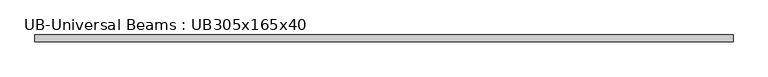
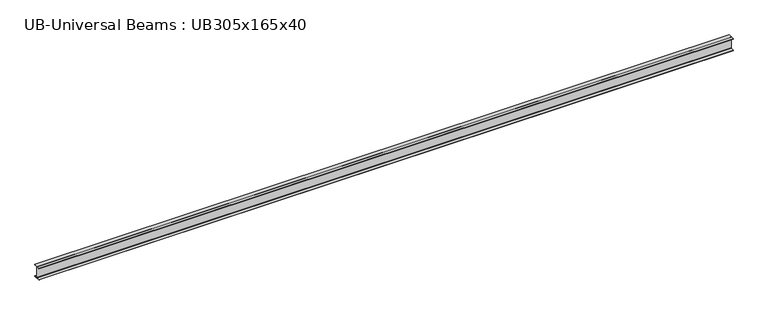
"""IFC4 building model written with IfcOpenShell, lengths in millimetres: beam geometry, UB-Universal Beams : UB305x165x40."""

from ifc_helpers import new_model, si_unit, point, frame, frame_2d, origin, place, context, project, spatial, polyline, circle_curve, trimmed, segment, composite_curve, outline, extrude, source, transform, mapped, element, save


def ub_universal_beams_ub305x165x40_00892be4(model_context):
    return source(origin(), model_context, "Body", "SweptSolid", [
        extrude(outline(composite_curve([segment(polyline([(82.5, -141.5), (82.5, -151.7), (-82.5, -151.7), (-82.5, -141.5), (-11.9, -141.5)]), True, "CONTINUOUS"), segment(trimmed(circle_curve(frame_2d((-11.9, -132.6)), 8.9), [point((-11.9, -141.5))], [point((-3.0, -132.6))], True, "CARTESIAN"), True, "CONTINUOUS"), segment(polyline([(-3.0, -132.6), (-3.0, 132.6)]), True, "CONTINUOUS"), segment(trimmed(circle_curve(frame_2d((-11.9, 132.6)), 8.9), [point((-3.0, 132.6))], [point((-11.9, 141.5))], True, "CARTESIAN"), True, "CONTINUOUS"), segment(polyline([(-11.9, 141.5), (-82.5, 141.5), (-82.5, 151.7), (82.5, 151.7), (82.5, 141.5), (11.9, 141.5)]), True, "CONTINUOUS"), segment(trimmed(circle_curve(frame_2d((11.9, 132.6)), 8.9), [point((11.9, 141.5))], [point((3.0, 132.6))], True, "CARTESIAN"), True, "CONTINUOUS"), segment(polyline([(3.0, 132.6), (3.0, -132.6)]), True, "CONTINUOUS"), segment(trimmed(circle_curve(frame_2d((11.9, -132.6)), 8.9), [point((3.0, -132.6))], [point((11.9, -141.5))], True, "CARTESIAN"), True, "CONTINUOUS"), segment(polyline([(11.9, -141.5), (82.5, -141.5)]), True, "CONTINUOUS")], self_intersect=False)), frame((-8227.15, 0.0, 0.0), z_axis=(1.0, 0.0, 0.0), x_axis=(0.0, 1.0, 0.0)), (0.0, 0.0, 1.0), 16987.5),
    ])


if __name__ == "__main__":
    model = new_model("IFC4")
    model_context = context("Model", 3, world=origin())
    ifc_project = project(units=[si_unit("LENGTHUNIT", "METRE", prefix="MILLI")], contexts=[model_context])
    site = spatial("IfcSite", under=ifc_project)
    building = spatial("IfcBuilding", under=site)
    placement = place(None, origin())
    ub_universal_beams_ub305x165x40_shape = ub_universal_beams_ub305x165x40_00892be4(model_context)
    element("IfcBeam", 1, ObjectType="UB-Universal Beams : UB305x165x40", at=placement, inside=building, context=model_context, shape_type="MappedRepresentation", body=[
        mapped(ub_universal_beams_ub305x165x40_shape, transform((0.0, 0.0, 0.0), x_axis=(1.0, 0.0, 0.0), y_axis=(0.0, 1.0, 0.0), z_axis=(0.0, 0.0, 1.0))),
    ])
    save(model, "model.ifc")
